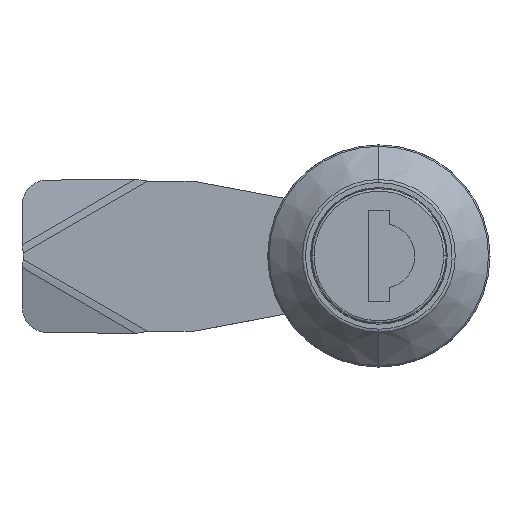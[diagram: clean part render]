
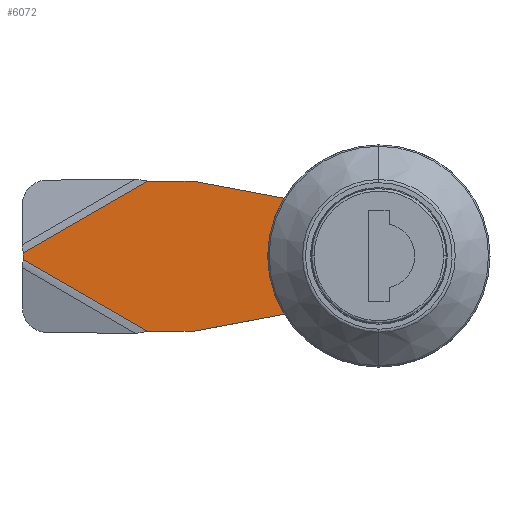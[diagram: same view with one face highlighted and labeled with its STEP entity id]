
A CAD part, top view. The second image highlights one B-rep face of the part: STEP entity #6072.
In plain terms, the highlighted planar face has unit normal (0, 0, 1).
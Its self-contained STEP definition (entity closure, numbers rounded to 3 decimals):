
#18 = LINE ( 'NONE', #9079, #8622 ) ;
#35 = VECTOR ( 'NONE', #7356, 1000. ) ;
#199 = VERTEX_POINT ( 'NONE', #4304 ) ;
#230 = EDGE_CURVE ( 'NONE', #3614, #10883, #1798, .T. ) ;
#280 = DIRECTION ( 'NONE',  ( 1., 0., 0. ) ) ;
#432 = DIRECTION ( 'NONE',  ( -0.866, -0.5, 0. ) ) ;
#455 = VECTOR ( 'NONE', #7867, 1000. ) ;
#568 = VECTOR ( 'NONE', #3716, 1000. ) ;
#754 = DIRECTION ( 'NONE',  ( -1., 0., 0. ) ) ;
#1020 = DIRECTION ( 'NONE',  ( 0., 0., -1. ) ) ;
#1051 = EDGE_CURVE ( 'NONE', #2954, #2996, #4184, .T. ) ;
#1225 = CARTESIAN_POINT ( 'NONE',  ( 45., -0.433, 3. ) ) ;
#1432 = ORIENTED_EDGE ( 'NONE', *, *, #3213, .T. ) ;
#1464 = ORIENTED_EDGE ( 'NONE', *, *, #6786, .T. ) ;
#1535 = CARTESIAN_POINT ( 'NONE',  ( 1.383, -8.387, 3. ) ) ;
#1643 = EDGE_CURVE ( 'NONE', #11281, #11202, #8588, .T. ) ;
#1648 = CARTESIAN_POINT ( 'NONE',  ( 45., 6.5, 3. ) ) ;
#1798 = LINE ( 'NONE', #10467, #6266 ) ;
#1854 = ORIENTED_EDGE ( 'NONE', *, *, #5223, .F. ) ;
#1900 = EDGE_CURVE ( 'NONE', #6928, #3063, #1950, .T. ) ;
#1950 = LINE ( 'NONE', #6680, #8729 ) ;
#2161 = LINE ( 'NONE', #9034, #11309 ) ;
#2286 = LINE ( 'NONE', #1648, #455 ) ;
#2579 = CARTESIAN_POINT ( 'NONE',  ( 29.295, -9.5, 3. ) ) ;
#2668 = VECTOR ( 'NONE', #6889, 1000. ) ;
#2735 = DIRECTION ( 'NONE',  ( 0.866, -0.5, 0. ) ) ;
#2848 = DIRECTION ( 'NONE',  ( -1., 0., 0. ) ) ;
#2871 = ORIENTED_EDGE ( 'NONE', *, *, #1900, .F. ) ;
#2947 = CARTESIAN_POINT ( 'NONE',  ( 42., -9.5, 3. ) ) ;
#2954 = VERTEX_POINT ( 'NONE', #8642 ) ;
#2996 = VERTEX_POINT ( 'NONE', #6037 ) ;
#3063 = VERTEX_POINT ( 'NONE', #2579 ) ;
#3184 = CARTESIAN_POINT ( 'NONE',  ( 10., -9.5, 3. ) ) ;
#3213 = EDGE_CURVE ( 'NONE', #6777, #6984, #6247, .T. ) ;
#3241 = CARTESIAN_POINT ( 'NONE',  ( 29.295, 9.5, 3. ) ) ;
#3307 = AXIS2_PLACEMENT_3D ( 'NONE', #4579, #10780, #5467 ) ;
#3395 = AXIS2_PLACEMENT_3D ( 'NONE', #3184, #9396, #4078 ) ;
#3614 = VERTEX_POINT ( 'NONE', #3241 ) ;
#3631 = DIRECTION ( 'NONE',  ( -1., 0., 0. ) ) ;
#3716 = DIRECTION ( 'NONE',  ( 0., 1., 0. ) ) ;
#3782 = DIRECTION ( 'NONE',  ( -0.983, -0.185, 0. ) ) ;
#3834 = FACE_BOUND ( 'NONE', #10563, .T. ) ;
#3959 = ORIENTED_EDGE ( 'NONE', *, *, #8337, .F. ) ;
#4078 = DIRECTION ( 'NONE',  ( -1., 0., 0. ) ) ;
#4109 = DIRECTION ( 'NONE',  ( -0.987, 0.163, 0. ) ) ;
#4184 = LINE ( 'NONE', #5997, #2668 ) ;
#4304 = CARTESIAN_POINT ( 'NONE',  ( 10.463, 7.043, 3. ) ) ;
#4579 = CARTESIAN_POINT ( 'NONE',  ( 0., 0., 3. ) ) ;
#4605 = AXIS2_PLACEMENT_3D ( 'NONE', #11397, #6103, #754 ) ;
#4630 = LINE ( 'NONE', #8043, #11410 ) ;
#4763 = CIRCLE ( 'NONE', #4605, 2.5 ) ;
#5005 = ORIENTED_EDGE ( 'NONE', *, *, #7446, .T. ) ;
#5121 = CARTESIAN_POINT ( 'NONE',  ( 23.5, 9.5, 3. ) ) ;
#5223 = EDGE_CURVE ( 'NONE', #8268, #7448, #10777, .T. ) ;
#5467 = DIRECTION ( 'NONE',  ( -1., 0., 0. ) ) ;
#5521 = ORIENTED_EDGE ( 'NONE', *, *, #8547, .T. ) ;
#5630 = CARTESIAN_POINT ( 'NONE',  ( 1.383, 8.387, 3. ) ) ;
#5997 = CARTESIAN_POINT ( 'NONE',  ( 10.463, -7.043, 3. ) ) ;
#6037 = CARTESIAN_POINT ( 'NONE',  ( 23.5, -9.5, 3. ) ) ;
#6059 = ORIENTED_EDGE ( 'NONE', *, *, #1643, .T. ) ;
#6072 = ADVANCED_FACE ( 'NONE', ( #3834, #8247 ), #9648, .F. ) ;
#6103 = DIRECTION ( 'NONE',  ( 0., 0., 1. ) ) ;
#6217 = EDGE_CURVE ( 'NONE', #11389, #6777, #6858, .T. ) ;
#6247 = LINE ( 'NONE', #10762, #10659 ) ;
#6266 = VECTOR ( 'NONE', #9582, 1000. ) ;
#6282 = VECTOR ( 'NONE', #7039, 1000. ) ;
#6322 = ORIENTED_EDGE ( 'NONE', *, *, #8770, .T. ) ;
#6361 = CARTESIAN_POINT ( 'NONE',  ( -4.05, -4.05, 3. ) ) ;
#6374 = EDGE_CURVE ( 'NONE', #2954, #11202, #10455, .T. ) ;
#6379 = CARTESIAN_POINT ( 'NONE',  ( 0., 0., 3. ) ) ;
#6418 = CARTESIAN_POINT ( 'NONE',  ( -4.05, -4.05, 3. ) ) ;
#6571 = VECTOR ( 'NONE', #280, 1000. ) ;
#6680 = CARTESIAN_POINT ( 'NONE',  ( 45., -0.433, 3. ) ) ;
#6777 = VERTEX_POINT ( 'NONE', #9867 ) ;
#6786 = EDGE_CURVE ( 'NONE', #10281, #11389, #10056, .T. ) ;
#6809 = ORIENTED_EDGE ( 'NONE', *, *, #9515, .F. ) ;
#6821 = VERTEX_POINT ( 'NONE', #9042 ) ;
#6829 = CARTESIAN_POINT ( 'NONE',  ( -8.5, 0., 3. ) ) ;
#6858 = LINE ( 'NONE', #9165, #35 ) ;
#6889 = DIRECTION ( 'NONE',  ( 0.983, -0.185, 0. ) ) ;
#6928 = VERTEX_POINT ( 'NONE', #1225 ) ;
#6984 = VERTEX_POINT ( 'NONE', #8406 ) ;
#7019 = EDGE_CURVE ( 'NONE', #7437, #7448, #9907, .T. ) ;
#7039 = DIRECTION ( 'NONE',  ( 0.987, 0.163, 0. ) ) ;
#7254 = DIRECTION ( 'NONE',  ( -1., 0., 0. ) ) ;
#7356 = DIRECTION ( 'NONE',  ( 1., 0., 0. ) ) ;
#7437 = VERTEX_POINT ( 'NONE', #10925 ) ;
#7446 = EDGE_CURVE ( 'NONE', #2996, #3063, #8900, .T. ) ;
#7448 = VERTEX_POINT ( 'NONE', #5630 ) ;
#7640 = DIRECTION ( 'NONE',  ( 0., -1., 0. ) ) ;
#7815 = VECTOR ( 'NONE', #4109, 1000. ) ;
#7867 = DIRECTION ( 'NONE',  ( 0., 1., 0. ) ) ;
#8008 = CARTESIAN_POINT ( 'NONE',  ( -4.05, 4.05, 3. ) ) ;
#8043 = CARTESIAN_POINT ( 'NONE',  ( 29.295, 9.5, 3. ) ) ;
#8197 = ORIENTED_EDGE ( 'NONE', *, *, #6217, .T. ) ;
#8238 = CIRCLE ( 'NONE', #10625, 8.5 ) ;
#8247 = FACE_OUTER_BOUND ( 'NONE', #10900, .T. ) ;
#8268 = VERTEX_POINT ( 'NONE', #6829 ) ;
#8337 = EDGE_CURVE ( 'NONE', #7437, #199, #4763, .T. ) ;
#8406 = CARTESIAN_POINT ( 'NONE',  ( 4.05, -4.05, 3. ) ) ;
#8547 = EDGE_CURVE ( 'NONE', #6984, #10281, #2161, .T. ) ;
#8588 = LINE ( 'NONE', #11492, #6282 ) ;
#8622 = VECTOR ( 'NONE', #3782, 1000. ) ;
#8642 = CARTESIAN_POINT ( 'NONE',  ( 10.463, -7.043, 3. ) ) ;
#8729 = VECTOR ( 'NONE', #432, 1000. ) ;
#8770 = EDGE_CURVE ( 'NONE', #6928, #6821, #2286, .T. ) ;
#8900 = LINE ( 'NONE', #2947, #6571 ) ;
#8929 = DIRECTION ( 'NONE',  ( 0., 0., -1. ) ) ;
#9034 = CARTESIAN_POINT ( 'NONE',  ( 4.05, -4.05, 3. ) ) ;
#9042 = CARTESIAN_POINT ( 'NONE',  ( 45., 0.433, 3. ) ) ;
#9079 = CARTESIAN_POINT ( 'NONE',  ( 10.463, 7.043, 3. ) ) ;
#9165 = CARTESIAN_POINT ( 'NONE',  ( -4.05, 4.05, 3. ) ) ;
#9396 = DIRECTION ( 'NONE',  ( 0., 0., 1. ) ) ;
#9399 = ORIENTED_EDGE ( 'NONE', *, *, #1051, .T. ) ;
#9414 = CARTESIAN_POINT ( 'NONE',  ( 9.593, 7.033, 3. ) ) ;
#9515 = EDGE_CURVE ( 'NONE', #11281, #8268, #8238, .T. ) ;
#9582 = DIRECTION ( 'NONE',  ( -1., 0., 0. ) ) ;
#9617 = ORIENTED_EDGE ( 'NONE', *, *, #11405, .F. ) ;
#9648 = PLANE ( 'NONE',  #9790 ) ;
#9790 = AXIS2_PLACEMENT_3D ( 'NONE', #10680, #8929, #3631 ) ;
#9867 = CARTESIAN_POINT ( 'NONE',  ( 4.05, 4.05, 3. ) ) ;
#9907 = LINE ( 'NONE', #9414, #7815 ) ;
#10056 = LINE ( 'NONE', #6361, #568 ) ;
#10057 = CARTESIAN_POINT ( 'NONE',  ( 9.593, -7.033, 3. ) ) ;
#10259 = ORIENTED_EDGE ( 'NONE', *, *, #11157, .T. ) ;
#10281 = VERTEX_POINT ( 'NONE', #6418 ) ;
#10455 = CIRCLE ( 'NONE', #3395, 2.5 ) ;
#10467 = CARTESIAN_POINT ( 'NONE',  ( 42., 9.5, 3. ) ) ;
#10563 = EDGE_LOOP ( 'NONE', ( #5521, #1464, #8197, #1432 ) ) ;
#10625 = AXIS2_PLACEMENT_3D ( 'NONE', #6379, #1020, #7254 ) ;
#10659 = VECTOR ( 'NONE', #7640, 1000. ) ;
#10680 = CARTESIAN_POINT ( 'NONE',  ( 10., -9.5, 3. ) ) ;
#10762 = CARTESIAN_POINT ( 'NONE',  ( 4.05, 4.05, 3. ) ) ;
#10777 = CIRCLE ( 'NONE', #3307, 8.5 ) ;
#10780 = DIRECTION ( 'NONE',  ( 0., 0., -1. ) ) ;
#10883 = VERTEX_POINT ( 'NONE', #5121 ) ;
#10900 = EDGE_LOOP ( 'NONE', ( #6322, #9617, #11175, #10259, #3959, #11353, #1854, #6809, #6059, #11050, #9399, #5005, #2871 ) ) ;
#10925 = CARTESIAN_POINT ( 'NONE',  ( 9.593, 7.033, 3. ) ) ;
#11050 = ORIENTED_EDGE ( 'NONE', *, *, #6374, .F. ) ;
#11157 = EDGE_CURVE ( 'NONE', #10883, #199, #18, .T. ) ;
#11175 = ORIENTED_EDGE ( 'NONE', *, *, #230, .T. ) ;
#11202 = VERTEX_POINT ( 'NONE', #10057 ) ;
#11281 = VERTEX_POINT ( 'NONE', #1535 ) ;
#11309 = VECTOR ( 'NONE', #2848, 1000. ) ;
#11353 = ORIENTED_EDGE ( 'NONE', *, *, #7019, .T. ) ;
#11389 = VERTEX_POINT ( 'NONE', #8008 ) ;
#11397 = CARTESIAN_POINT ( 'NONE',  ( 10., 9.5, 3. ) ) ;
#11405 = EDGE_CURVE ( 'NONE', #3614, #6821, #4630, .T. ) ;
#11410 = VECTOR ( 'NONE', #2735, 1000. ) ;
#11492 = CARTESIAN_POINT ( 'NONE',  ( 9.593, -7.033, 3. ) ) ;
